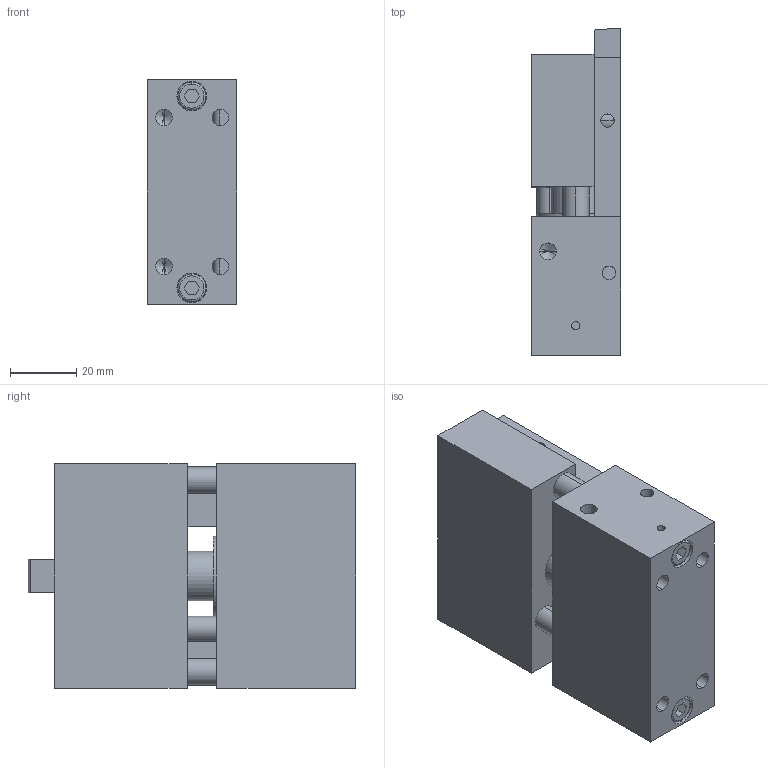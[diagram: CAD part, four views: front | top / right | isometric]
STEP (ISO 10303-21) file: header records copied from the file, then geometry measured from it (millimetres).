
FILE_DESCRIPTION (( 'STEP AP203' ), '1' );
FILE_NAME ('DBSR-30-08-EW.STEP', '2018-08-21T06:34:29', ( '' ), ( '' ), 'SwSTEP 2.0', 'SolidWorks 2017', '' );
FILE_SCHEMA (( 'CONFIG_CONTROL_DESIGN' ));
Length unit declared in the file: millimetre
Products named in the file (1): DBSR-30-08-EW
Bounding box: 27.1 x 99 x 68 mm (x, y, z)
Volume: 144052.8 mm3; surface area: 34102.3 mm2
Topology: 1 solids, 3 shells, 192 faces, 480 edges, 311 vertices
Faces by surface type: plane 96, cylinder 86, cone 6, torus 4
Entity records: 6035 total; most frequent: CARTESIAN_POINT 1210, DIRECTION 1016, ORIENTED_EDGE 948, EDGE_CURVE 474, AXIS2_PLACEMENT_3D 357, VERTEX_POINT 311, VECTOR 302, LINE 302
